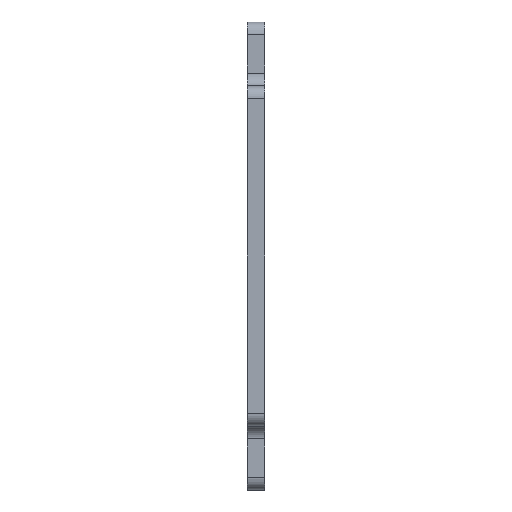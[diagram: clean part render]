
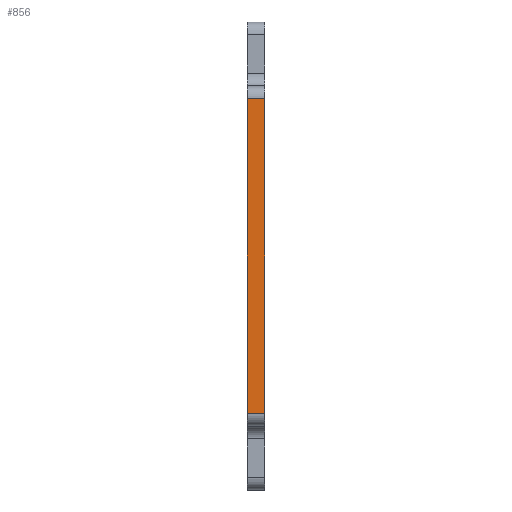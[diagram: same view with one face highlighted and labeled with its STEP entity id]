
A CAD part, left-side view. The second image highlights one B-rep face of the part: STEP entity #856.
In plain terms, the highlighted planar face has unit normal (-1, 0, 0).
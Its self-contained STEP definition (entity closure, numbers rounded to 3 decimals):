
#20 = CARTESIAN_POINT ( 'NONE',  ( -110., -4., -74. ) ) ;
#142 = LINE ( 'NONE', #2565, #1800 ) ;
#212 = DIRECTION ( 'NONE',  ( 0., 0., 1. ) ) ;
#301 = EDGE_CURVE ( 'NONE', #778, #2068, #768, .T. ) ;
#332 = PLANE ( 'NONE',  #2717 ) ;
#590 = DIRECTION ( 'NONE',  ( 0., 0., 1. ) ) ;
#768 = LINE ( 'NONE', #2044, #1285 ) ;
#778 = VERTEX_POINT ( 'NONE', #1455 ) ;
#802 = VECTOR ( 'NONE', #2115, 1000. ) ;
#818 = DIRECTION ( 'NONE',  ( 1., 0., 0. ) ) ;
#856 = ADVANCED_FACE ( 'NONE', ( #2705 ), #332, .F. ) ;
#912 = LINE ( 'NONE', #1236, #802 ) ;
#952 = EDGE_CURVE ( 'NONE', #1531, #2475, #912, .T. ) ;
#1031 = ORIENTED_EDGE ( 'NONE', *, *, #1818, .T. ) ;
#1236 = CARTESIAN_POINT ( 'NONE',  ( -110., 4., -74. ) ) ;
#1244 = CARTESIAN_POINT ( 'NONE',  ( -110., 4., 74. ) ) ;
#1285 = VECTOR ( 'NONE', #1329, 1000. ) ;
#1306 = CARTESIAN_POINT ( 'NONE',  ( -110., 4., -110. ) ) ;
#1311 = VECTOR ( 'NONE', #590, 1000. ) ;
#1319 = ORIENTED_EDGE ( 'NONE', *, *, #952, .T. ) ;
#1329 = DIRECTION ( 'NONE',  ( 0., 1., 0. ) ) ;
#1371 = EDGE_CURVE ( 'NONE', #1531, #2068, #142, .T. ) ;
#1420 = CARTESIAN_POINT ( 'NONE',  ( -110., 4., -74. ) ) ;
#1431 = EDGE_LOOP ( 'NONE', ( #1031, #2276, #2242, #1319 ) ) ;
#1455 = CARTESIAN_POINT ( 'NONE',  ( -110., -4., 74. ) ) ;
#1531 = VERTEX_POINT ( 'NONE', #1420 ) ;
#1800 = VECTOR ( 'NONE', #212, 1000. ) ;
#1818 = EDGE_CURVE ( 'NONE', #2475, #778, #2593, .T. ) ;
#2044 = CARTESIAN_POINT ( 'NONE',  ( -110., 4., 74. ) ) ;
#2068 = VERTEX_POINT ( 'NONE', #1244 ) ;
#2115 = DIRECTION ( 'NONE',  ( 0., -1., 0. ) ) ;
#2138 = CARTESIAN_POINT ( 'NONE',  ( -110., -4., -110. ) ) ;
#2160 = DIRECTION ( 'NONE',  ( 0., 0., -1. ) ) ;
#2242 = ORIENTED_EDGE ( 'NONE', *, *, #1371, .F. ) ;
#2276 = ORIENTED_EDGE ( 'NONE', *, *, #301, .T. ) ;
#2475 = VERTEX_POINT ( 'NONE', #20 ) ;
#2565 = CARTESIAN_POINT ( 'NONE',  ( -110., 4., -110. ) ) ;
#2593 = LINE ( 'NONE', #2138, #1311 ) ;
#2705 = FACE_OUTER_BOUND ( 'NONE', #1431, .T. ) ;
#2717 = AXIS2_PLACEMENT_3D ( 'NONE', #1306, #818, #2160 ) ;
